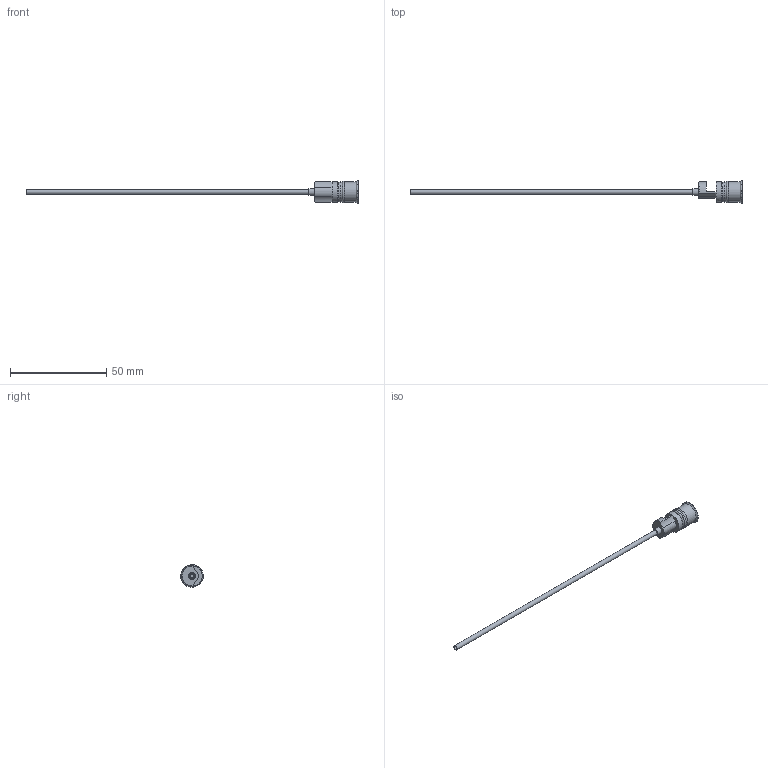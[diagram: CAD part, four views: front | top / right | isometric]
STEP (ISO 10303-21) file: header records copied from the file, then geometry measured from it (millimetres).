
FILE_DESCRIPTION( ( 'STEP AP214' ), '1' );
FILE_NAME( 'p:/temp/worker_256/temp/exporttempdir_3268_534_nfqjE/format_0/RF-10x150_2.5.stp', '2021-02-05T19:33:33', ( 'License CC BY-ND 4.0' ), ( 'CADENAS' ), ' ', 'PARTsolutions', ' ' );
FILE_SCHEMA( ( 'AUTOMOTIVE_DESIGN { 1 0 10303 214 1 1 1 1 }' ) );
Length unit declared in the file: millimetre
Products named in the file (1): _RF-10x150/2.5
Bounding box: 172.5 x 11.8 x 11.8 mm (x, y, z)
Volume: 1675.8 mm3; surface area: 3408.7 mm2
Topology: 1 solids, 1 shells, 46 faces, 111 edges, 71 vertices
Faces by surface type: plane 26, cylinder 13, cone 5, torus 2
Full cylindrical faces by diameter (mm): 2 x1, 2.5 x1, 3.5 x1, 6 x1, 10.5 x3, 11.8 x1
Entity records: 1649 total; most frequent: CARTESIAN_POINT 235, DIRECTION 217, ORIENTED_EDGE 188, EDGE_CURVE 94, AXIS2_PLACEMENT_3D 82, VERTEX_POINT 70, EDGE_LOOP 66, FACE_OUTER_BOUND 56
